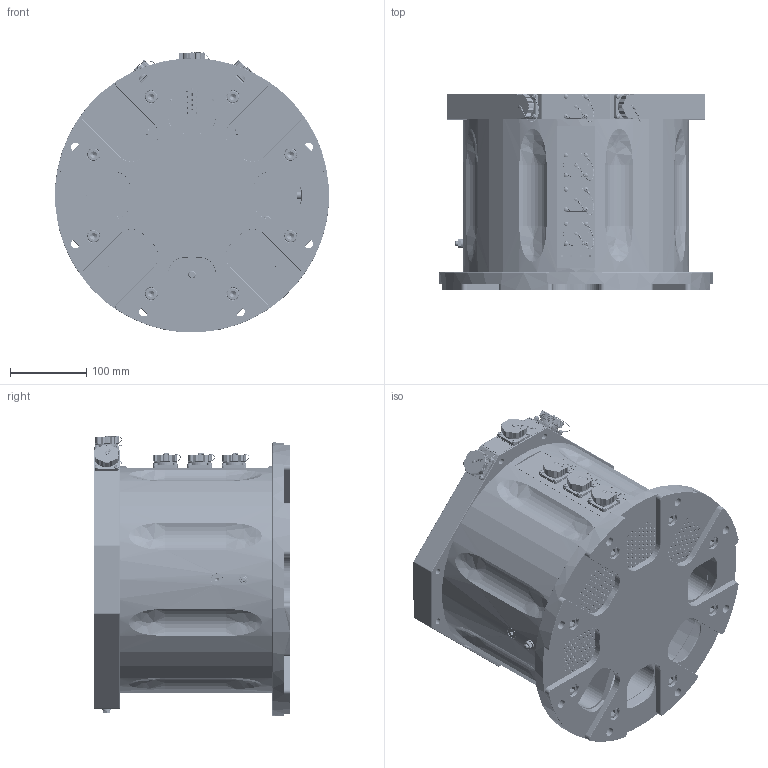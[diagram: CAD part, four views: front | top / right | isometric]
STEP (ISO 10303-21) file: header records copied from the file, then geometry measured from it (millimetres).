
FILE_DESCRIPTION(('STEP AP242'), '1');
FILE_NAME('TL.0020 ÎÏÓ', '2024-12-09T11:33:47', ('Àëåêñ'), (''), 'C3D Converter', 'C3D Toolkit', '');
FILE_SCHEMA(('AP242_MANAGED_MODEL_BASED_3D_ENGINEERING_MIM_LF { 1 0 10303 442 1 1 4 }'));
Length unit declared in the file: millimetre
Products named in the file (36): Сборка вала с муфлоном; TL.0020-0012 Корпус; TL.0020-013 Опора; TL.0020-014 Платформа поворотная; TL.0020-015 Шильд; TL.0020-016 Шильд; DIN 934 - M6; DIN 908 - M10 x 1; DIN 125 - A 6,4; DIN 933 - M6  x 16; DIN 933 - M6  x 12; WS10-0.8 (40036); DIN 912 - M10 x 16; DIN 912 - M10 x 25; TL.0020-016 Шильд_1; WY24-Z; WY24-Z_1; Клемма для тросика для разъёма WY24-Z; Тросик для разъёма WY24-Z_MIR; DIN 7985 (Z) - M3x8-Z; DIN 7985 (Z) - M3x4-Z
Assembly tree (74 placements, depth 3):
  Сборка вала с муфлоном
    TL.0020-0012 Корпус
    TL.0020-013 Опора
    TL.0020-014 Платформа поворотная
    TL.0020-015 Шильд
    TL.0020-016 Шильд
    DIN 934 - M6
    DIN 908 - M10 x 1  x2
    DIN 908 - M10 x 1
    DIN 125 - A 6,4
    DIN 125 - A 6,4
    DIN 933 - M6  x 16
    DIN 933 - M6  x 12
    WS10-0.8 (40036)  x4
    WS10-0.8 (40036)
    DIN 912 - M10 x 16
    DIN 912 - M10 x 16
    DIN 912 - M10 x 16  x2
    DIN 912 - M10 x 16
    DIN 912 - M10 x 25  x8
    TL.0020-016 Шильд_1
    WY24-Z  x3
      WY24-Z_1
      Клемма для тросика для разъёма WY24-Z
      Клемма для тросика для разъёма WY24-Z
      Тросик для разъёма WY24-Z_MIR
    WY24-Z  x2
      WY24-Z_1
      Клемма для тросика для разъёма WY24-Z
      Клемма для тросика для разъёма WY24-Z
      Тросик для разъёма WY24-Z_MIR
    WY24-Z
      WY24-Z_1
      Клемма для тросика для разъёма WY24-Z
      Клемма для тросика для разъёма WY24-Z
      Тросик для разъёма WY24-Z_MIR
    DIN 7985 (Z) - M3x8-Z
    DIN 7985 (Z) - M3x8-Z  x11
    DIN 7985 (Z) - M3x8-Z
    DIN 7985 (Z) - M3x8-Z  x2
    DIN 7985 (Z) - M3x8-Z
    DIN 7985 (Z) - M3x4-Z  x6
    DIN 7985 (Z) - M3x4-Z
    DIN 7985 (Z) - M3x4-Z
Bounding box: 359.66 x 258 x 368.62 mm (x, y, z)
Volume: 2260895.4 mm3; surface area: 1372663.8 mm2
Topology: 79 solids, 87 shells, 5128 faces, 13833 edges, 9037 vertices
Faces by surface type: plane 2577, cylinder 1749, cone 604, torus 144, bspline 30, sphere 24
Full cylindrical faces by diameter (mm): 0.8 x24, 2 x6, 2.459 x30, 2.75 x24, 3 x312, 3.12 x6, 3.2 x24, 3.242 x12, 3.4 x6, 3.5 x4, 4 x20, 4.46 x6, 4.917 x60, 5.459 x2, 6 x14, 6.4 x2, 8.376 x21, 8.7 x2, 8.917 x1, 10 x25, 10.3 x5, 10.5 x8, 12 x10, 14 x3, 15 x4, 16 x18, 16.7 x5, 17 x8, 17.066 x6, 19.653 x6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
Entity records: 103597 total; most frequent: CARTESIAN_POINT 31427, DIRECTION 11336, ORIENTED_EDGE 9962, EDGE_CURVE 4983, AXIS2_PLACEMENT_3D 4749, EDGE_LOOP 3947, VERTEX_POINT 3763, FACE_BOUND 2487
